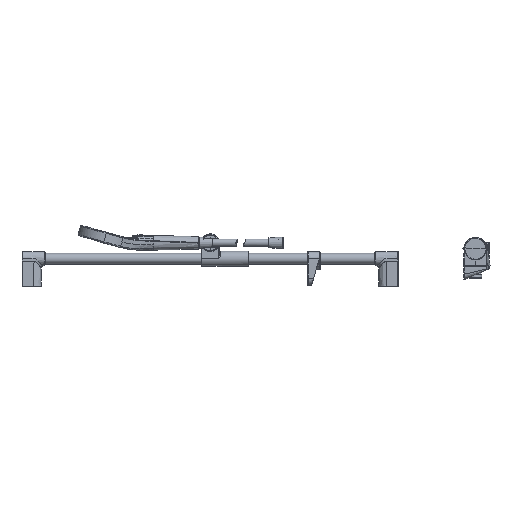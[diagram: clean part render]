
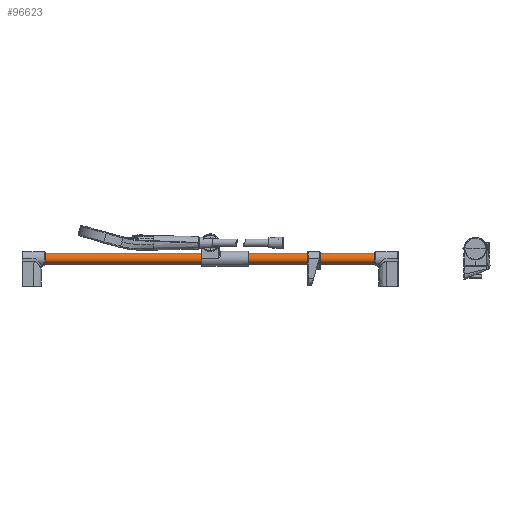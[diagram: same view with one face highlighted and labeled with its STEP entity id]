
A CAD part, left-side view. The second image highlights one B-rep face of the part: STEP entity #96623.
In plain terms, the highlighted cylindrical face has radius 10.95 mm (diameter 21.9 mm), a partial arc.
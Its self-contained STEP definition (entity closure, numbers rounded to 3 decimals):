
#7018 = EDGE_CURVE ( 'NONE', #42191, #26651, #17641, .T. ) ;
#9528 = CIRCLE ( 'NONE', #76898, 10.95 ) ;
#17641 = CIRCLE ( 'NONE', #86779, 10.95 ) ;
#18807 = DIRECTION ( 'NONE',  ( 0., -1., 0. ) ) ;
#19325 = VERTEX_POINT ( 'NONE', #156733 ) ;
#26651 = VERTEX_POINT ( 'NONE', #107502 ) ;
#35604 = CARTESIAN_POINT ( 'NONE',  ( 0., -344.7, 0. ) ) ;
#40080 = LINE ( 'NONE', #194799, #59319 ) ;
#41313 = DIRECTION ( 'NONE',  ( 0., 0., -1. ) ) ;
#42191 = VERTEX_POINT ( 'NONE', #170548 ) ;
#56011 = DIRECTION ( 'NONE',  ( 0., 0., 1. ) ) ;
#56081 = DIRECTION ( 'NONE',  ( 0., -1., 0. ) ) ;
#59319 = VECTOR ( 'NONE', #147740, 1000. ) ;
#67524 = ORIENTED_EDGE ( 'NONE', *, *, #7018, .F. ) ;
#69384 = CARTESIAN_POINT ( 'NONE',  ( 0., 415.3, 0. ) ) ;
#75617 = CYLINDRICAL_SURFACE ( 'NONE', #117455, 10.95 ) ;
#76898 = AXIS2_PLACEMENT_3D ( 'NONE', #132691, #56081, #41313 ) ;
#79354 = EDGE_CURVE ( 'NONE', #19325, #26651, #153146, .T. ) ;
#81200 = DIRECTION ( 'NONE',  ( 0., 0., -1. ) ) ;
#86779 = AXIS2_PLACEMENT_3D ( 'NONE', #35604, #18807, #81200 ) ;
#87739 = CARTESIAN_POINT ( 'NONE',  ( 0., 415.3, 10.95 ) ) ;
#87947 = EDGE_LOOP ( 'NONE', ( #118960, #147642, #67524, #197436 ) ) ;
#91998 = VERTEX_POINT ( 'NONE', #87739 ) ;
#92402 = FACE_OUTER_BOUND ( 'NONE', #87947, .T. ) ;
#96623 = ADVANCED_FACE ( 'NONE', ( #92402 ), #75617, .T. ) ;
#103745 = DIRECTION ( 'NONE',  ( 0., -1., 0. ) ) ;
#104398 = CARTESIAN_POINT ( 'NONE',  ( 0., 415.3, -10.95 ) ) ;
#107502 = CARTESIAN_POINT ( 'NONE',  ( 0., -344.7, -10.95 ) ) ;
#111671 = EDGE_CURVE ( 'NONE', #91998, #42191, #40080, .T. ) ;
#117455 = AXIS2_PLACEMENT_3D ( 'NONE', #69384, #191133, #56011 ) ;
#118960 = ORIENTED_EDGE ( 'NONE', *, *, #150074, .T. ) ;
#132691 = CARTESIAN_POINT ( 'NONE',  ( 0., 415.3, 0. ) ) ;
#147642 = ORIENTED_EDGE ( 'NONE', *, *, #79354, .T. ) ;
#147740 = DIRECTION ( 'NONE',  ( 0., -1., 0. ) ) ;
#150074 = EDGE_CURVE ( 'NONE', #91998, #19325, #9528, .T. ) ;
#153146 = LINE ( 'NONE', #104398, #196447 ) ;
#156733 = CARTESIAN_POINT ( 'NONE',  ( 0., 415.3, -10.95 ) ) ;
#170548 = CARTESIAN_POINT ( 'NONE',  ( 0., -344.7, 10.95 ) ) ;
#191133 = DIRECTION ( 'NONE',  ( 0., -1., 0. ) ) ;
#194799 = CARTESIAN_POINT ( 'NONE',  ( 0., 415.3, 10.95 ) ) ;
#196447 = VECTOR ( 'NONE', #103745, 1000. ) ;
#197436 = ORIENTED_EDGE ( 'NONE', *, *, #111671, .F. ) ;
